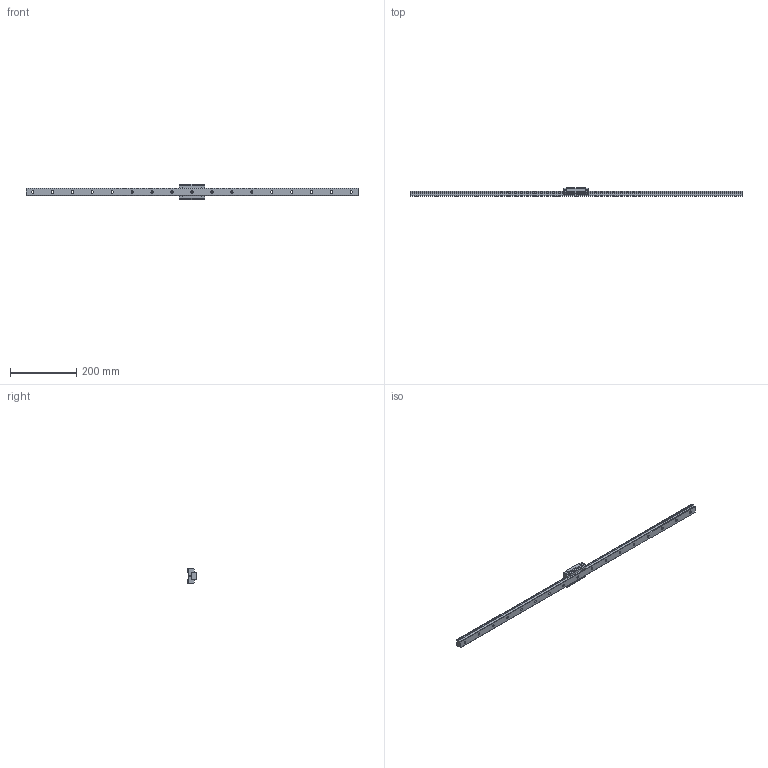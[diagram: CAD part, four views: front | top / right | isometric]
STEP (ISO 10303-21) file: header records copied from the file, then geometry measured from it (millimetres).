
FILE_DESCRIPTION( ( '' ), '1' );
FILE_NAME( 'C:/Users/v3-771-32344/Documents/Website 2016/STEP/SRS25M1UU1000200461.5000.stp', '2016-11-10T13:10:41', ( '' ), ( '' ), ' ', ' ', ' ' );
FILE_SCHEMA( ( 'CONFIG_CONTROL_DESIGN' ) );
Length unit declared in the file: millimetre
Products named in the file (2): 1; 2
Bounding box: 1000 x 25 x 48 mm (x, y, z)
Volume: 370138.4 mm3; surface area: 96587.1 mm2
Topology: 2 solids, 2 shells, 237 faces, 606 edges, 388 vertices
Faces by surface type: plane 123, cylinder 98, cone 16
Entity records: 7284 total; most frequent: DIRECTION 1288, CARTESIAN_POINT 1225, ORIENTED_EDGE 1196, EDGE_CURVE 598, AXIS2_PLACEMENT_3D 451, VERTEX_POINT 388, LINE 386, VECTOR 386
